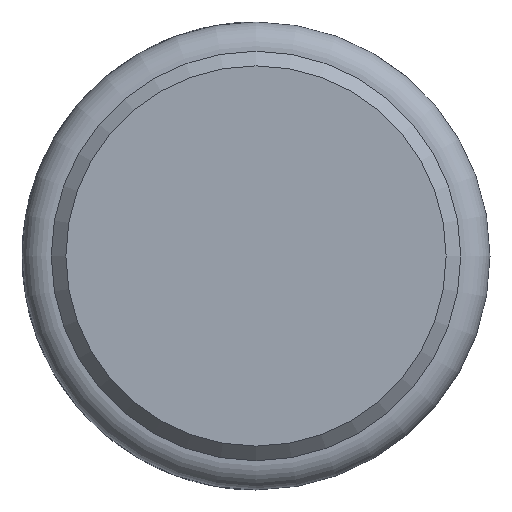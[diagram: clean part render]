
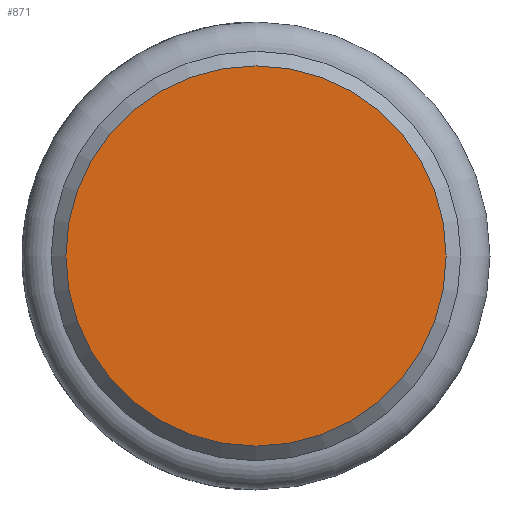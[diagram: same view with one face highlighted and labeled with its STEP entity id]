
A CAD part, left-side view. The second image highlights one B-rep face of the part: STEP entity #871.
In plain terms, the highlighted planar face has unit normal (-1, 0, 0).
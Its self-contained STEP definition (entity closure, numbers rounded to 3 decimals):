
#241 = DIRECTION ( 'NONE',  ( 0., 0., -1. ) ) ;
#298 = EDGE_CURVE ( 'NONE', #1182, #1182, #597, .T. ) ;
#356 = FACE_OUTER_BOUND ( 'NONE', #1117, .T. ) ;
#401 = DIRECTION ( 'NONE',  ( 0., 0., -1. ) ) ;
#419 = CARTESIAN_POINT ( 'NONE',  ( 0., 0., -8. ) ) ;
#499 = DIRECTION ( 'NONE',  ( -1., 0., 0. ) ) ;
#587 = CARTESIAN_POINT ( 'NONE',  ( 0., 0., 0. ) ) ;
#597 = CIRCLE ( 'NONE', #673, 6.5 ) ;
#602 = PLANE ( 'NONE',  #984 ) ;
#643 = ORIENTED_EDGE ( 'NONE', *, *, #298, .T. ) ;
#653 = CARTESIAN_POINT ( 'NONE',  ( 0., 0., -6.5 ) ) ;
#673 = AXIS2_PLACEMENT_3D ( 'NONE', #587, #499, #401 ) ;
#701 = DIRECTION ( 'NONE',  ( 1., 0., 0. ) ) ;
#871 = ADVANCED_FACE ( 'NONE', ( #356 ), #602, .F. ) ;
#984 = AXIS2_PLACEMENT_3D ( 'NONE', #419, #701, #241 ) ;
#1117 = EDGE_LOOP ( 'NONE', ( #643 ) ) ;
#1182 = VERTEX_POINT ( 'NONE', #653 ) ;
